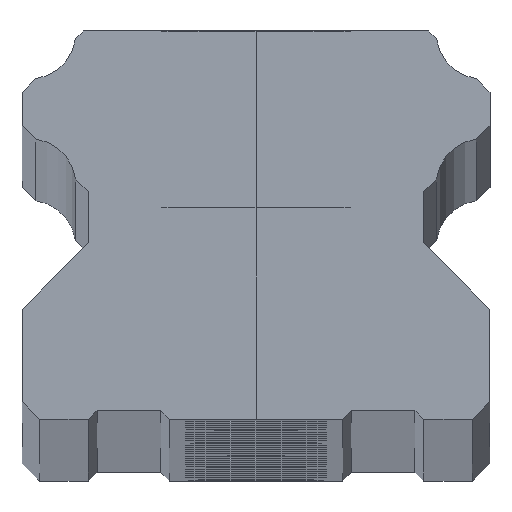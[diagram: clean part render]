
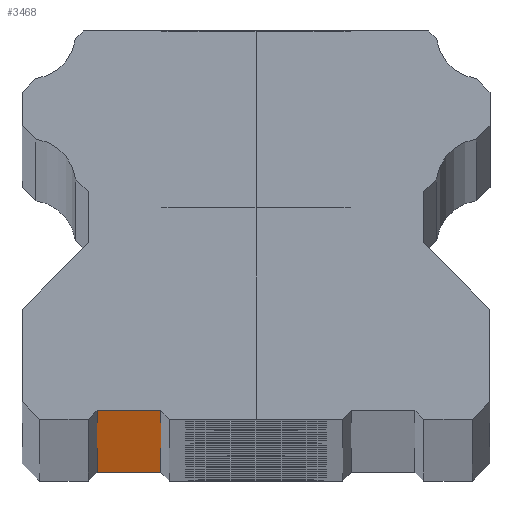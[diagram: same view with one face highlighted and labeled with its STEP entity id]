
A CAD part, top view. The second image highlights one B-rep face of the part: STEP entity #3468.
In plain terms, the highlighted planar face has unit normal (0, -1, 0).
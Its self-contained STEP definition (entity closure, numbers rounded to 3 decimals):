
#51 = DIRECTION ( 'NONE',  ( 1., 0., 0. ) ) ;
#220 = VECTOR ( 'NONE', #3518, 1000. ) ;
#480 = VECTOR ( 'NONE', #5184, 1000. ) ;
#607 = LINE ( 'NONE', #2062, #220 ) ;
#663 = AXIS2_PLACEMENT_3D ( 'NONE', #3127, #2772, #900 ) ;
#717 = EDGE_CURVE ( 'NONE', #4441, #4396, #6184, .T. ) ;
#751 = EDGE_CURVE ( 'NONE', #5497, #3457, #2333, .T. ) ;
#900 = DIRECTION ( 'NONE',  ( 0., 0., 1. ) ) ;
#1008 = ORIENTED_EDGE ( 'NONE', *, *, #751, .F. ) ;
#1654 = CARTESIAN_POINT ( 'NONE',  ( -10.812, -21.04, -2000. ) ) ;
#1997 = CARTESIAN_POINT ( 'NONE',  ( -18.012, -21.04, 2000. ) ) ;
#2062 = CARTESIAN_POINT ( 'NONE',  ( -18.012, -21.04, -2000. ) ) ;
#2333 = LINE ( 'NONE', #5313, #480 ) ;
#2748 = VECTOR ( 'NONE', #2754, 1000. ) ;
#2754 = DIRECTION ( 'NONE',  ( 0., 0., -1. ) ) ;
#2772 = DIRECTION ( 'NONE',  ( 0., 1., 0. ) ) ;
#2830 = VECTOR ( 'NONE', #51, 1000. ) ;
#3127 = CARTESIAN_POINT ( 'NONE',  ( -18.012, -21.04, 2000. ) ) ;
#3207 = CARTESIAN_POINT ( 'NONE',  ( -18.012, -21.04, 2000. ) ) ;
#3457 = VERTEX_POINT ( 'NONE', #1654 ) ;
#3468 = ADVANCED_FACE ( 'NONE', ( #3621 ), #5592, .F. ) ;
#3518 = DIRECTION ( 'NONE',  ( 1., 0., 0. ) ) ;
#3621 = FACE_OUTER_BOUND ( 'NONE', #6285, .T. ) ;
#3672 = EDGE_CURVE ( 'NONE', #4441, #5497, #4485, .T. ) ;
#3944 = CARTESIAN_POINT ( 'NONE',  ( -10.812, -21.04, 2000. ) ) ;
#4124 = ORIENTED_EDGE ( 'NONE', *, *, #3672, .F. ) ;
#4396 = VERTEX_POINT ( 'NONE', #6039 ) ;
#4441 = VERTEX_POINT ( 'NONE', #5074 ) ;
#4485 = LINE ( 'NONE', #1997, #2830 ) ;
#4533 = ORIENTED_EDGE ( 'NONE', *, *, #6043, .T. ) ;
#4996 = ORIENTED_EDGE ( 'NONE', *, *, #717, .T. ) ;
#5074 = CARTESIAN_POINT ( 'NONE',  ( -18.012, -21.04, 2000. ) ) ;
#5184 = DIRECTION ( 'NONE',  ( 0., 0., -1. ) ) ;
#5313 = CARTESIAN_POINT ( 'NONE',  ( -10.812, -21.04, 2000. ) ) ;
#5497 = VERTEX_POINT ( 'NONE', #3944 ) ;
#5592 = PLANE ( 'NONE',  #663 ) ;
#6039 = CARTESIAN_POINT ( 'NONE',  ( -18.012, -21.04, -2000. ) ) ;
#6043 = EDGE_CURVE ( 'NONE', #4396, #3457, #607, .T. ) ;
#6184 = LINE ( 'NONE', #3207, #2748 ) ;
#6285 = EDGE_LOOP ( 'NONE', ( #4533, #1008, #4124, #4996 ) ) ;
